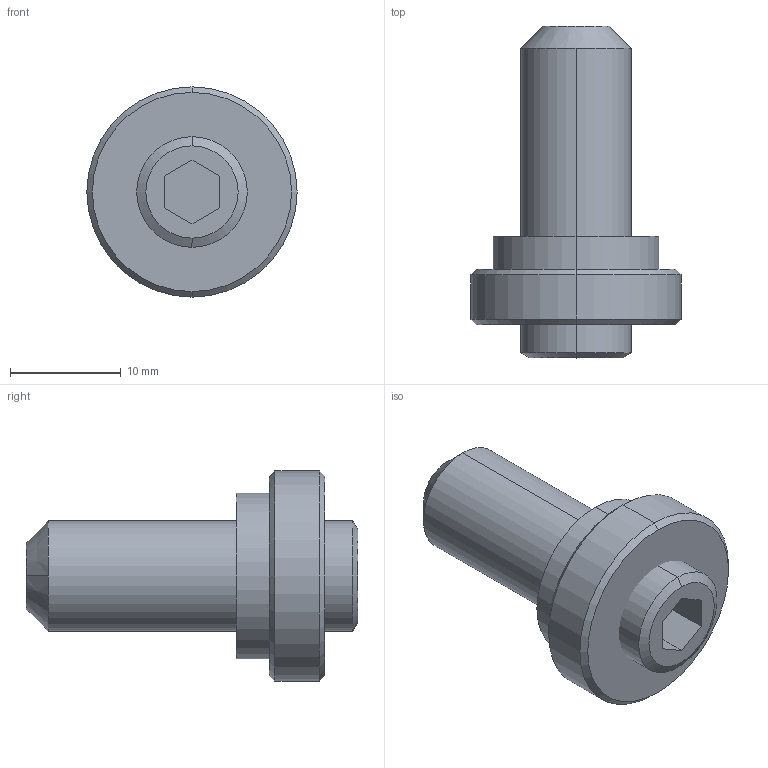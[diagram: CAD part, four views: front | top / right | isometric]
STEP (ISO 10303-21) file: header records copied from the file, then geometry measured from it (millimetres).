
FILE_DESCRIPTION (( 'STEP AP203' ), '1' );
FILE_NAME ('VA00752.STEP', '2016-07-11T08:41:45', ( '' ), ( '' ), 'SwSTEP 2.0', 'SolidWorks 2016', '' );
FILE_SCHEMA (( 'CONFIG_CONTROL_DESIGN' ));
Length unit declared in the file: millimetre
Products named in the file (1): VA00752
Bounding box: 19 x 30 x 19 mm (x, y, z)
Volume: 3627.7 mm3; surface area: 2219.8 mm2
Topology: 2 solids, 2 shells, 33 faces, 74 edges, 45 vertices
Faces by surface type: cone 14, plane 11, cylinder 8
Entity records: 985 total; most frequent: DIRECTION 172, CARTESIAN_POINT 151, ORIENTED_EDGE 144, EDGE_CURVE 72, AXIS2_PLACEMENT_3D 66, VERTEX_POINT 45, VECTOR 40, LINE 40
